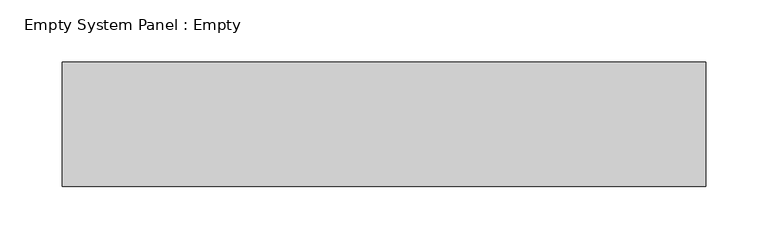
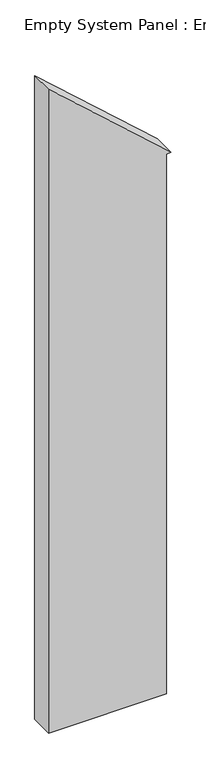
"""IFC4 building model written with IfcOpenShell, lengths in millimetres: plate geometry, Empty System Panel : Empty."""

from ifc_helpers import new_model, si_unit, frame, origin, place, context, project, spatial, polyline, outline, extrude, source, transform, mapped, element, save


def empty_system_panel_empty_c0a6d36f(model_context):
    return source(origin(), model_context, "Body", "SweptSolid", [
        extrude(outline(polyline([(0.0, -258.7446429), (0.0, 238.7446429), (2403.9640958, 238.7446429), (2403.9640958, 258.7446429), (2866.866593, -258.7446429), (0.0, -258.7446429)])), frame((0.0, -50.0, 0.0), z_axis=(0.0, 1.0, 0.0), x_axis=(0.0, 0.0, 1.0)), (0.0, 0.0, 1.0), 100.0),
    ])


if __name__ == "__main__":
    model = new_model("IFC4")
    model_context = context("Model", 3, world=origin())
    ifc_project = project(units=[si_unit("LENGTHUNIT", "METRE", prefix="MILLI")], contexts=[model_context])
    site = spatial("IfcSite", under=ifc_project)
    building = spatial("IfcBuilding", under=site)
    placement = place(None, origin())
    empty_system_panel_empty_shape = empty_system_panel_empty_c0a6d36f(model_context)
    element("IfcPlate", 1, ObjectType="Empty System Panel : Empty", at=placement, inside=building, context=model_context, shape_type="MappedRepresentation", body=[
        mapped(empty_system_panel_empty_shape, transform((0.0, 0.0, 0.0), x_axis=(1.0, 0.0, 0.0), y_axis=(0.0, 1.0, 0.0), z_axis=(0.0, 0.0, 1.0))),
    ])
    save(model, "model.ifc")
